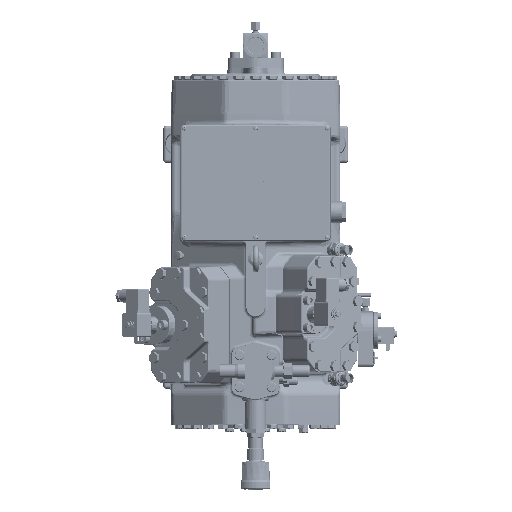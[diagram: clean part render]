
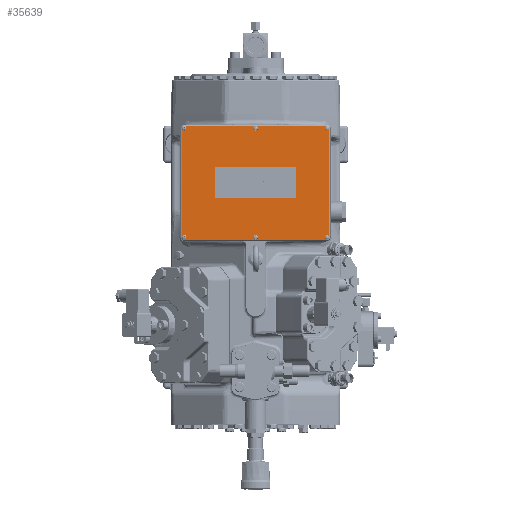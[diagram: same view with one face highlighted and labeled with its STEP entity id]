
A CAD part, top view. The second image highlights one B-rep face of the part: STEP entity #35639.
In plain terms, the highlighted planar face has unit normal (0, 0, 1).
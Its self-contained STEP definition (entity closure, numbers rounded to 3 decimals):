
#27238=FACE_BOUND('',#55912,.T.);
#27239=FACE_BOUND('',#55913,.T.);
#35639=ADVANCED_FACE('',(#27238,#27239),#38867,.T.);
#38867=PLANE('',#160448);
#55912=EDGE_LOOP('',(#100021,#100022,#100023,#100024));
#55913=EDGE_LOOP('',(#100025,#100026,#100027,#100028,#100029,#100030,#100031,
#100032,#100033,#100034,#100035,#100036,#100037,#100038));
#61596=CIRCLE('',#160437,3.7);
#61597=CIRCLE('',#160439,3.7);
#61598=CIRCLE('',#160441,3.7);
#61599=CIRCLE('',#160443,3.7);
#61600=CIRCLE('',#160445,3.7);
#61601=CIRCLE('',#160447,3.7);
#100021=ORIENTED_EDGE('',*,*,#132120,.F.);
#100022=ORIENTED_EDGE('',*,*,#132119,.T.);
#100023=ORIENTED_EDGE('',*,*,#132116,.T.);
#100024=ORIENTED_EDGE('',*,*,#132113,.F.);
#100025=ORIENTED_EDGE('',*,*,#132153,.T.);
#100026=ORIENTED_EDGE('',*,*,#132154,.T.);
#100027=ORIENTED_EDGE('',*,*,#132138,.T.);
#100028=ORIENTED_EDGE('',*,*,#132155,.T.);
#100029=ORIENTED_EDGE('',*,*,#132140,.T.);
#100030=ORIENTED_EDGE('',*,*,#132156,.T.);
#100031=ORIENTED_EDGE('',*,*,#132157,.T.);
#100032=ORIENTED_EDGE('',*,*,#132146,.T.);
#100033=ORIENTED_EDGE('',*,*,#132158,.T.);
#100034=ORIENTED_EDGE('',*,*,#132148,.T.);
#100035=ORIENTED_EDGE('',*,*,#132159,.T.);
#100036=ORIENTED_EDGE('',*,*,#132152,.T.);
#100037=ORIENTED_EDGE('',*,*,#132160,.T.);
#100038=ORIENTED_EDGE('',*,*,#132161,.T.);
#112816=VERTEX_POINT('',#282830);
#112817=VERTEX_POINT('',#282831);
#112818=VERTEX_POINT('',#282836);
#112819=VERTEX_POINT('',#282840);
#112828=VERTEX_POINT('',#282899);
#112829=VERTEX_POINT('',#282900);
#112831=VERTEX_POINT('',#282908);
#112832=VERTEX_POINT('',#282910);
#112834=VERTEX_POINT('',#282940);
#112837=VERTEX_POINT('',#282966);
#112838=VERTEX_POINT('',#282979);
#112839=VERTEX_POINT('',#282980);
#112840=VERTEX_POINT('',#282987);
#112843=VERTEX_POINT('',#283013);
#112844=VERTEX_POINT('',#283017);
#112845=VERTEX_POINT('',#283018);
#112846=VERTEX_POINT('',#283022);
#112847=VERTEX_POINT('',#283027);
#132113=EDGE_CURVE('',#112816,#112817,#139293,.T.);
#132116=EDGE_CURVE('',#112818,#112817,#139296,.T.);
#132119=EDGE_CURVE('',#112819,#112818,#139299,.T.);
#132120=EDGE_CURVE('',#112819,#112816,#139300,.T.);
#132138=EDGE_CURVE('',#112828,#112829,#61596,.T.);
#132140=EDGE_CURVE('',#112832,#112831,#61597,.T.);
#132146=EDGE_CURVE('',#112834,#112837,#61598,.T.);
#132148=EDGE_CURVE('',#112838,#112839,#61599,.T.);
#132152=EDGE_CURVE('',#112840,#112843,#61600,.T.);
#132153=EDGE_CURVE('',#112844,#112845,#61601,.T.);
#132154=EDGE_CURVE('',#112845,#112828,#139305,.T.);
#132155=EDGE_CURVE('',#112829,#112832,#139306,.T.);
#132156=EDGE_CURVE('',#112831,#112846,#139307,.T.);
#132157=EDGE_CURVE('',#112846,#112834,#139308,.T.);
#132158=EDGE_CURVE('',#112837,#112838,#139309,.T.);
#132159=EDGE_CURVE('',#112839,#112840,#139310,.T.);
#132160=EDGE_CURVE('',#112843,#112847,#139311,.T.);
#132161=EDGE_CURVE('',#112847,#112844,#139312,.T.);
#139293=LINE('',#282829,#147123);
#139296=LINE('',#282835,#147126);
#139299=LINE('',#282841,#147129);
#139300=LINE('',#282843,#147130);
#139305=LINE('',#283019,#147135);
#139306=LINE('',#283020,#147136);
#139307=LINE('',#283021,#147137);
#139308=LINE('',#283023,#147138);
#139309=LINE('',#283024,#147139);
#139310=LINE('',#283025,#147140);
#139311=LINE('',#283026,#147141);
#139312=LINE('',#283028,#147142);
#147123=VECTOR('',#194831,1.);
#147126=VECTOR('',#194836,1.);
#147129=VECTOR('',#194841,1.);
#147130=VECTOR('',#194844,1.);
#147135=VECTOR('',#194905,1.);
#147136=VECTOR('',#194906,1.);
#147137=VECTOR('',#194907,1.);
#147138=VECTOR('',#194908,1.);
#147139=VECTOR('',#194909,1.);
#147140=VECTOR('',#194910,1.);
#147141=VECTOR('',#194911,1.);
#147142=VECTOR('',#194912,1.);
#160437=AXIS2_PLACEMENT_3D('',#282901,#194883,#194884);
#160439=AXIS2_PLACEMENT_3D('',#282909,#194887,#194888);
#160441=AXIS2_PLACEMENT_3D('',#282967,#194891,#194892);
#160443=AXIS2_PLACEMENT_3D('',#282981,#194895,#194896);
#160445=AXIS2_PLACEMENT_3D('',#283014,#194899,#194900);
#160447=AXIS2_PLACEMENT_3D('',#283016,#194903,#194904);
#160448=AXIS2_PLACEMENT_3D('',#283029,#194913,#194914);
#194831=DIRECTION('',(-1.,0.,0.));
#194836=DIRECTION('',(0.,1.,0.));
#194841=DIRECTION('',(-1.,0.,0.));
#194844=DIRECTION('',(0.,1.,0.));
#194883=DIRECTION('',(0.,0.,-1.));
#194884=DIRECTION('',(1.,0.,0.));
#194887=DIRECTION('',(0.,0.,-1.));
#194888=DIRECTION('',(1.,0.,0.));
#194891=DIRECTION('',(0.,0.,-1.));
#194892=DIRECTION('',(1.,0.,0.));
#194895=DIRECTION('',(0.,0.,-1.));
#194896=DIRECTION('',(1.,0.,0.));
#194899=DIRECTION('',(0.,0.,-1.));
#194900=DIRECTION('',(1.,0.,0.));
#194903=DIRECTION('',(0.,0.,-1.));
#194904=DIRECTION('',(1.,0.,0.));
#194905=DIRECTION('',(1.,0.,0.));
#194906=DIRECTION('',(1.,0.,0.));
#194907=DIRECTION('',(0.,1.,0.));
#194908=DIRECTION('',(0.,1.,0.));
#194909=DIRECTION('',(-1.,0.,0.));
#194910=DIRECTION('',(-1.,0.,0.));
#194911=DIRECTION('',(0.,-1.,0.));
#194912=DIRECTION('',(0.,-1.,0.));
#194913=DIRECTION('',(0.,0.,1.));
#194914=DIRECTION('',(-1.,0.,0.));
#282829=CARTESIAN_POINT('',(71.831,25.,85.111));
#282830=CARTESIAN_POINT('',(71.831,25.,85.111));
#282831=CARTESIAN_POINT('',(-59.169,25.,85.111));
#282835=CARTESIAN_POINT('',(-59.169,-25.,85.111));
#282836=CARTESIAN_POINT('',(-59.169,-25.,85.111));
#282840=CARTESIAN_POINT('',(71.831,-25.,85.111));
#282841=CARTESIAN_POINT('',(71.831,-25.,85.111));
#282843=CARTESIAN_POINT('',(71.831,-25.,85.111));
#282899=CARTESIAN_POINT('',(5.781,-92.159,85.111));
#282900=CARTESIAN_POINT('',(6.881,-92.159,85.111));
#282901=CARTESIAN_POINT('',(6.331,-88.5,85.111));
#282908=CARTESIAN_POINT('',(125.99,-87.95,85.111));
#282909=CARTESIAN_POINT('',(122.331,-88.5,85.111));
#282910=CARTESIAN_POINT('',(121.781,-92.159,85.111));
#282940=CARTESIAN_POINT('',(125.99,87.95,85.111));
#282966=CARTESIAN_POINT('',(121.781,92.159,85.111));
#282967=CARTESIAN_POINT('',(122.331,88.5,85.111));
#282979=CARTESIAN_POINT('',(6.881,92.159,85.111));
#282980=CARTESIAN_POINT('',(5.781,92.159,85.111));
#282981=CARTESIAN_POINT('',(6.331,88.5,85.111));
#282987=CARTESIAN_POINT('',(-109.119,92.159,85.111));
#283013=CARTESIAN_POINT('',(-113.328,87.95,85.111));
#283014=CARTESIAN_POINT('',(-109.669,88.5,85.111));
#283016=CARTESIAN_POINT('',(-109.669,-88.5,85.111));
#283017=CARTESIAN_POINT('',(-113.328,-87.95,85.111));
#283018=CARTESIAN_POINT('',(-109.119,-92.159,85.111));
#283019=CARTESIAN_POINT('',(6.331,-92.159,85.111));
#283020=CARTESIAN_POINT('',(6.331,-92.159,85.111));
#283021=CARTESIAN_POINT('',(125.99,0.,85.111));
#283022=CARTESIAN_POINT('',(125.99,0.,85.111));
#283023=CARTESIAN_POINT('',(125.99,0.,85.111));
#283024=CARTESIAN_POINT('',(6.331,92.159,85.111));
#283025=CARTESIAN_POINT('',(6.331,92.159,85.111));
#283026=CARTESIAN_POINT('',(-113.328,0.,85.111));
#283027=CARTESIAN_POINT('',(-113.328,0.,85.111));
#283028=CARTESIAN_POINT('',(-113.328,0.,85.111));
#283029=CARTESIAN_POINT('',(6.331,0.,85.111));
